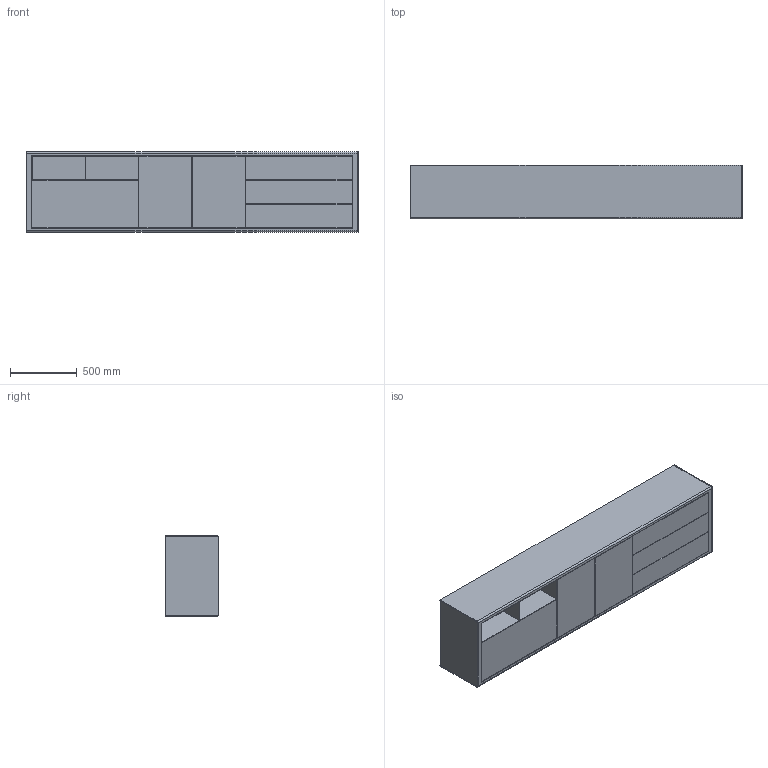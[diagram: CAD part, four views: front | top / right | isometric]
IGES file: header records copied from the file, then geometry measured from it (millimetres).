
Start section: Comment
Global section: file name: S36-H3-248-01.igs; native system:  By UGS Corp.; preprocessor: XPlus GENERIC/IGES 3.0; author: Author; organization: Title; date: 20141218.103052; units: inch
Bounding box: 2480 x 400 x 600 mm (x, y, z)
Surface area: 13640067.5 mm2 (no closed solid volume)
Topology: 0 solids, 0 shells, 70 faces, 348 edges, 348 vertices
Faces by surface type: bspline 70
